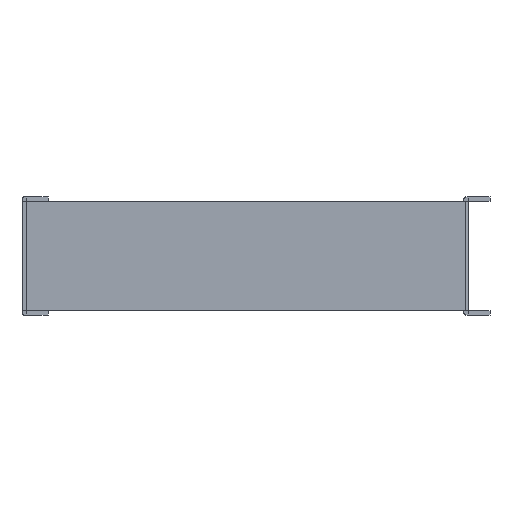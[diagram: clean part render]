
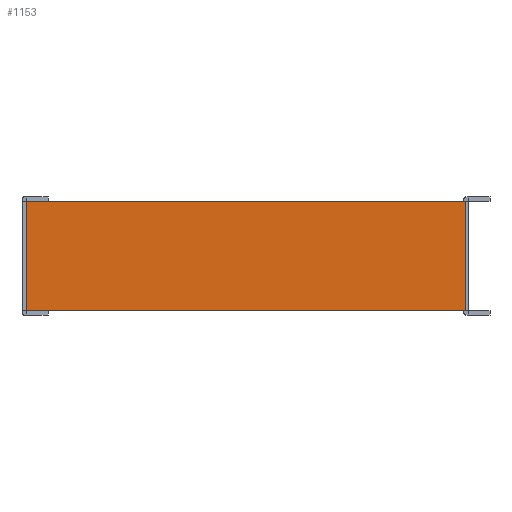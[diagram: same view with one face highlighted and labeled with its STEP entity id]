
A CAD part, left-side view. The second image highlights one B-rep face of the part: STEP entity #1153.
In plain terms, the highlighted planar face has unit normal (-1, 0, 0).
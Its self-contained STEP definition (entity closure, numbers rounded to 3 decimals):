
#53=FACE_OUTER_BOUND('',#121,.T.);
#121=EDGE_LOOP('',(#814,#815,#816,#817));
#199=LINE('',#1627,#349);
#209=LINE('',#1656,#359);
#223=LINE('',#1682,#373);
#232=LINE('',#1700,#382);
#349=VECTOR('',#1309,304.8);
#359=VECTOR('',#1329,304.8);
#373=VECTOR('',#1349,304.8);
#382=VECTOR('',#1360,304.8);
#499=VERTEX_POINT('',#1624);
#500=VERTEX_POINT('',#1626);
#513=VERTEX_POINT('',#1653);
#514=VERTEX_POINT('',#1655);
#607=EDGE_CURVE('',#499,#500,#199,.T.);
#621=EDGE_CURVE('',#513,#514,#209,.T.);
#635=EDGE_CURVE('',#514,#499,#223,.T.);
#644=EDGE_CURVE('',#513,#500,#232,.T.);
#814=ORIENTED_EDGE('',*,*,#635,.F.);
#815=ORIENTED_EDGE('',*,*,#621,.F.);
#816=ORIENTED_EDGE('',*,*,#644,.T.);
#817=ORIENTED_EDGE('',*,*,#607,.F.);
#1095=PLANE('',#1228);
#1153=ADVANCED_FACE('',(#53),#1095,.T.);
#1228=AXIS2_PLACEMENT_3D('',#1699,#1358,#1359);
#1309=DIRECTION('',(0.,-1.,0.));
#1329=DIRECTION('',(0.,1.,0.));
#1349=DIRECTION('',(0.,0.,1.));
#1358=DIRECTION('center_axis',(-1.,0.,0.));
#1359=DIRECTION('ref_axis',(0.,0.,-1.));
#1360=DIRECTION('',(0.,0.,1.));
#1624=CARTESIAN_POINT('',(-1.,100.,25.));
#1626=CARTESIAN_POINT('',(-1.,-101.,25.));
#1627=CARTESIAN_POINT('',(-1.,100.,25.));
#1653=CARTESIAN_POINT('',(-1.,-101.,-25.));
#1655=CARTESIAN_POINT('',(-1.,100.,-25.));
#1656=CARTESIAN_POINT('',(-1.,-101.,-25.));
#1682=CARTESIAN_POINT('',(-1.,100.,25.));
#1699=CARTESIAN_POINT('Origin',(-1.,100.,25.));
#1700=CARTESIAN_POINT('',(-1.,-101.,25.));
